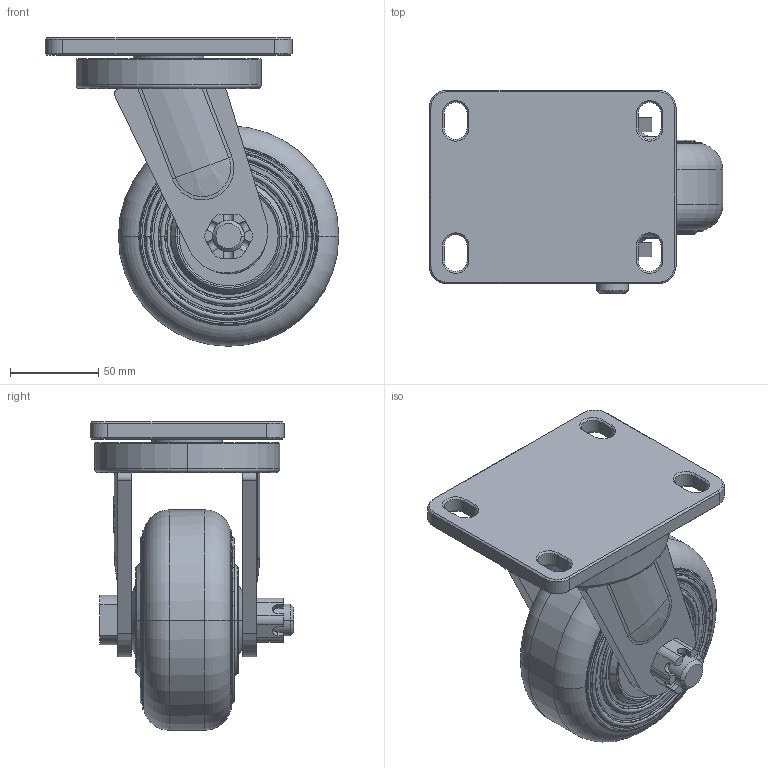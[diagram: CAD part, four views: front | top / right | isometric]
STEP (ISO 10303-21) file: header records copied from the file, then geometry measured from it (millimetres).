
FILE_DESCRIPTION(/* description */ (''),/* implementation_level */ '2;1');
FILE_NAME(/* name */ '35B01_5_F.stp',/* time_stamp */ '2022-08-27T16:18:16+08:00',/* author */ (''),/* organization */ (''),/* preprocessor_version */ 'ST-DEVELOPER v14',/* originating_system */ 'SIEMENS PLM Software NX 8.0',/* authorisation */ '');
FILE_SCHEMA (('AUTOMOTIVE_DESIGN { 1 0 10303 214 3 1 1 1 }'));
Length unit declared in the file: millimetre
Products named in the file (1): 35B01_5_F
Bounding box: 166.5 x 115.5 x 175 mm (x, y, z)
Volume: 824669.5 mm3; surface area: 163659 mm2
Topology: 1 solids, 7 shells, 523 faces, 1385 edges, 907 vertices
Faces by surface type: plane 247, cylinder 112, torus 102, cone 52, bspline 10
Full cylindrical faces by diameter (mm): 40 x1
Entity records: 19035 total; most frequent: CARTESIAN_POINT 5478, DIRECTION 3103, ORIENTED_EDGE 2762, EDGE_CURVE 1381, AXIS2_PLACEMENT_3D 1319, VERTEX_POINT 906, EDGE_LOOP 581, ADVANCED_FACE 523
